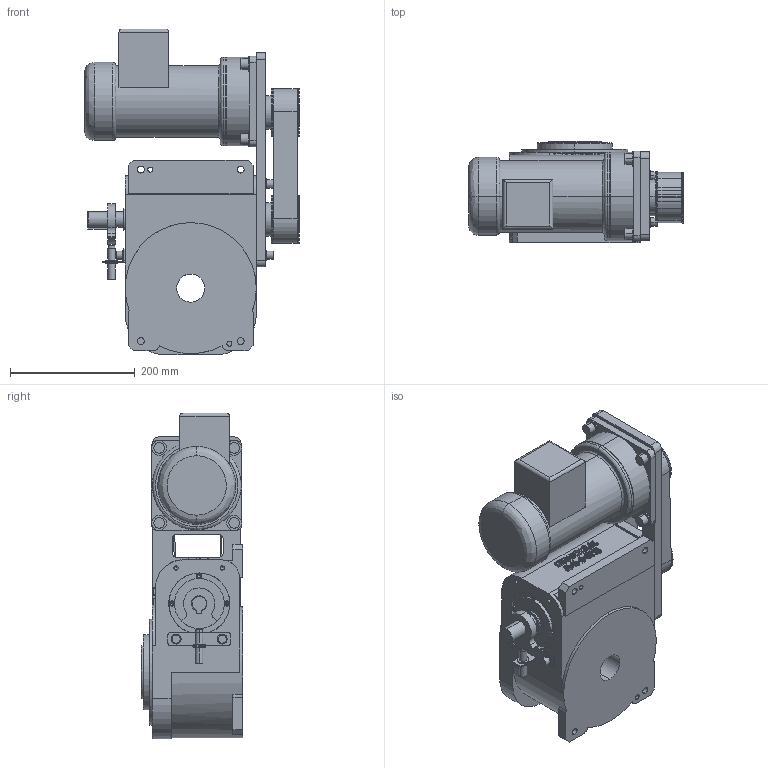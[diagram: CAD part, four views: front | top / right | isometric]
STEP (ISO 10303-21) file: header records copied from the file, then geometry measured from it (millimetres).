
FILE_DESCRIPTION (( 'STEP AP214' ), '1' );
FILE_NAME ('ER-RU110DA英锐凸轮分割器固定盘壳体法兰面销孔3D水平带轮式右侧前方DL(电话15062628977)AA.STEP', '2022-08-10T07:08:43', ( '微软用户' ), ( '微软中国' ), 'SwSTEP 2.0', 'SolidWorks 2017', '' );
FILE_SCHEMA (( 'AUTOMOTIVE_DESIGN' ));
Length unit declared in the file: millimetre
Products named in the file (1): ER-RU110DA英锐凸轮分割器固定盘壳体法兰面销孔3D水平带轮式右侧前方DL(电话15062628977)AA
Bounding box: 344 x 163 x 522.2 mm (x, y, z)
Volume: 12606164.2 mm3; surface area: 713390.4 mm2
Topology: 13 solids, 15 shells, 1634 faces, 3988 edges, 2520 vertices
Faces by surface type: plane 843, cylinder 386, bspline 345, cone 54, torus 6
Entity records: 88554 total; most frequent: CARTESIAN_POINT 41246, ORIENTED_EDGE 7888, DIRECTION 6822, EDGE_CURVE 3944, VERTEX_POINT 2520, VECTOR 2296, LINE 2296, AXIS2_PLACEMENT_3D 2263
